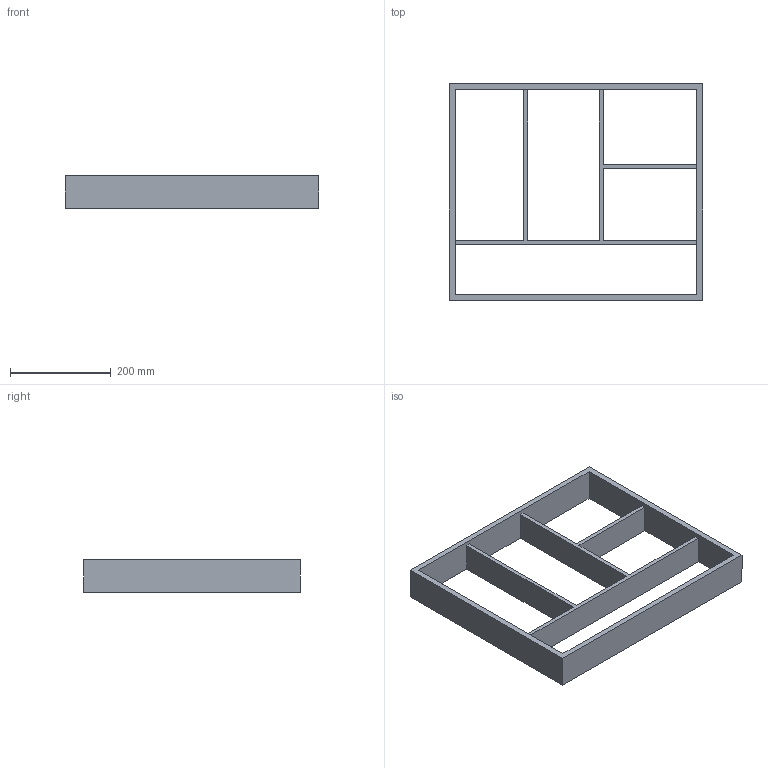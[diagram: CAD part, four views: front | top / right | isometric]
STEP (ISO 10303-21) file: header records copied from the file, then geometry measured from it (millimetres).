
FILE_DESCRIPTION (( 'STEP AP214' ), '1' );
FILE_NAME ('Vario Multi NL450_B600_19 mm_Alu.step', '2010-10-07T06:24:32', ( 'grass' ), ( '' ), 'SwSTEP 2.0', 'SolidWorks 2010', '' );
FILE_SCHEMA (( 'AUTOMOTIVE_DESIGN' ));
Length unit declared in the file: millimetre
Products named in the file (1): Vario Multi NL450_B600_19 mm_Alu
Bounding box: 502 x 429 x 65 mm (x, y, z)
Volume: 1989753.6 mm3; surface area: 439586 mm2
Topology: 1 solids, 1 shells, 22 faces, 72 edges, 48 vertices
Faces by surface type: plane 22
Entity records: 830 total; most frequent: ORIENTED_EDGE 144, CARTESIAN_POINT 143, DIRECTION 118, EDGE_CURVE 72, VECTOR 72, LINE 72, VERTEX_POINT 48, EDGE_LOOP 28
